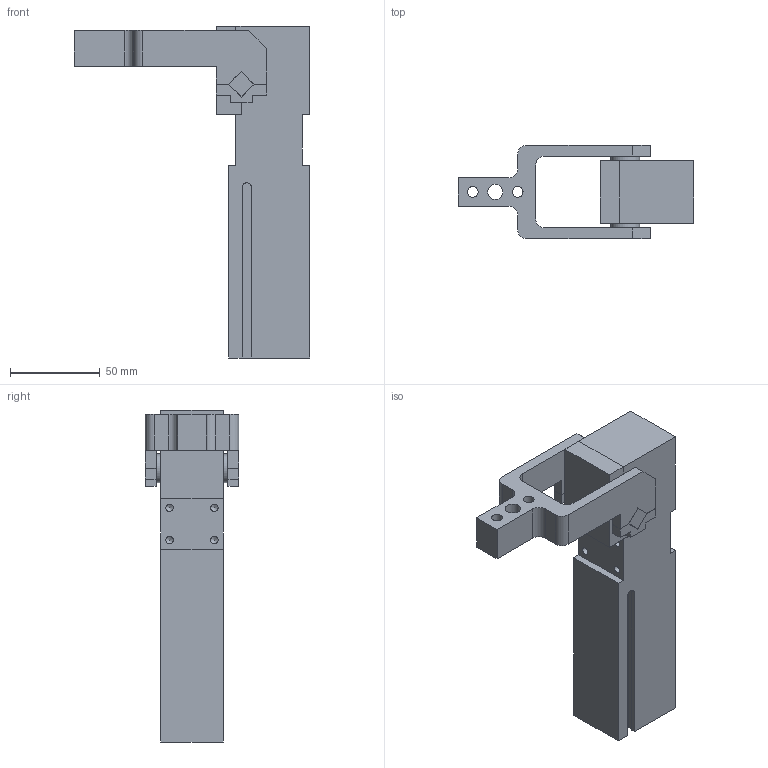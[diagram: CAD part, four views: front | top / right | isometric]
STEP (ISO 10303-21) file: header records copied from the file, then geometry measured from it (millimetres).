
FILE_DESCRIPTION((''),'2;1');
FILE_NAME('G:\Konstruktion\Modelle\Step\K_25_1_A18_TUENKERS.stp','2010-09-07T11:02:19',('huberm'),(''),'Autodesk Inventor 2010','Autodesk Inventor 2010','');
FILE_SCHEMA(('AUTOMOTIVE_DESIGN { 1 0 10303 214 1 1 1 1 }'));
Length unit declared in the file: millimetre
Products named in the file (1): K_25_1_A17_TUENKERS
Bounding box: 131 x 52 x 185 mm (x, y, z)
Volume: 328348.9 mm3; surface area: 60815.4 mm2
Topology: 6 solids, 6 shells, 144 faces, 368 edges, 242 vertices
Faces by surface type: plane 79, bspline 32, cylinder 25, cone 8
Full cylindrical faces by diameter (mm): 4.134 x8, 6 x2, 8.376 x2, 8.5 x1, 15 x2, 16 x1
Entity records: 4219 total; most frequent: CARTESIAN_POINT 853, ORIENTED_EDGE 672, DIRECTION 622, EDGE_CURVE 336, VECTOR 276, LINE 276, VERTEX_POINT 234, EDGE_LOOP 180
